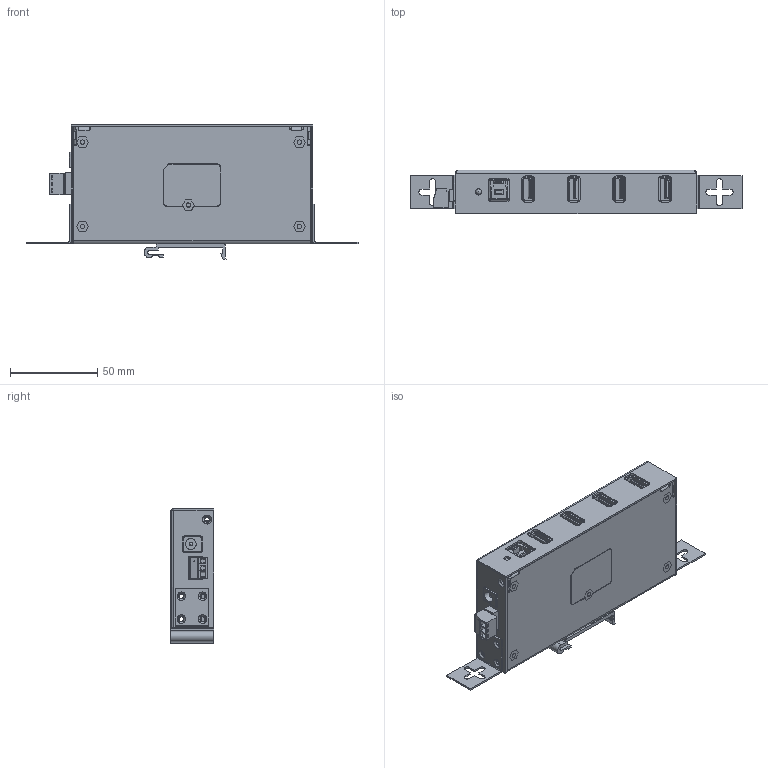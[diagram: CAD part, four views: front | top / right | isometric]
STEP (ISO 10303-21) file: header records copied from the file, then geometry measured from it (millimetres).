
FILE_DESCRIPTION(/* description */ (''),/* implementation_level */ '2;1');
FILE_NAME(/* name */ 'C:/Users/Leo/Desktop/CoolGear/GM-HU34 Model3D LPV1.step',/* time_stamp */ '2021-04-08T16:10:19-05:00',/* author */ (''),/* organization */ (''),/* preprocessor_version */ 'ST-DEVELOPER v18.1',/* originating_system */ 'Autodesk Translation Framework v10.6.0.1341',/* authorisation */ '');
FILE_SCHEMA (('AUTOMOTIVE_DESIGN { 1 0 10303 214 3 1 1 }'));
Products named in the file (10): GM-HU34; HUBU24-38-F-B_1; HUBU24-38-F-B_1_1; HUBU24-43-AL-BL_1; HUBU24-BOT-F-B_1; Component63; Component65; HUBU34-TOP-F-B_5; Terminal 3 Connector 3.5 v2; Component66
Assembly tree (9 placements, depth 3):
  GM-HU34
    HUBU24-38-F-B_1
    HUBU24-38-F-B_1_1
    HUBU24-43-AL-BL_1
    HUBU24-BOT-F-B_1
      Component63
      Component65
    HUBU34-TOP-F-B_5
    Terminal 3 Connector 3.5 v2
    Component66
Bounding box: 190.8 x 25.02 x 77.51 mm (x, y, z)
Volume: 62930.4 mm3; surface area: 137512.3 mm2
Topology: 8 solids, 10 shells, 2920 faces, 7817 edges, 5080 vertices
Faces by surface type: plane 2109, cylinder 652, torus 78, bspline 38, sphere 22, cone 21
Full cylindrical faces by diameter (mm): 0.7 x28, 0.8 x11, 1.2 x3, 1.3 x3, 1.5 x21, 2 x7, 2.5 x4, 2.6 x25, 2.8 x6, 3 x2, 3.3 x5, 3.6 x1, 4.6 x4, 6 x5, 6.3 x1
Entity records: 97740 total; most frequent: CARTESIAN_POINT 22785, ORIENTED_EDGE 15586, DIRECTION 14893, EDGE_CURVE 7795, LINE 6127, VECTOR 6127, VERTEX_POINT 5080, AXIS2_PLACEMENT_3D 4383
